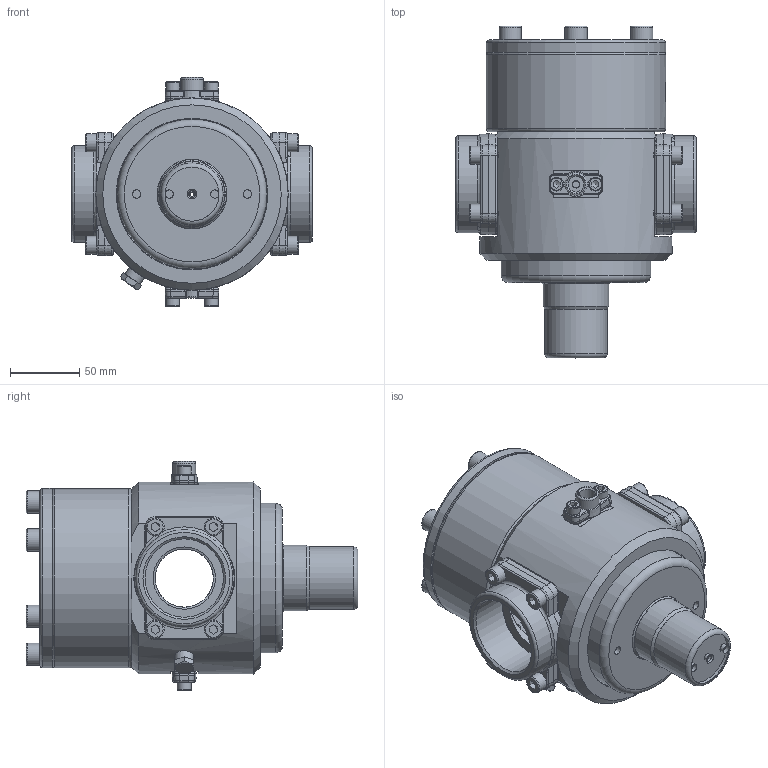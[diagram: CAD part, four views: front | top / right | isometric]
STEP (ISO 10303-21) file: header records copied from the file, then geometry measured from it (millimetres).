
FILE_DESCRIPTION(/* description */ ('Regolatore di pressione 320R2'),/* implementation_level */ '2;1');
FILE_NAME(/* name */ 'C:\Users\MassimoRatti\Desktop\320P2#T0E0GG990I000.stp',/* time_stamp */ '2023-03-16T15:07:06+01:00',/* author */ ('MassimoRatti'),/* organization */ (''),/* preprocessor_version */ 'ST-DEVELOPER v19',/* originating_system */ 'Autodesk Inventor 2023',/* authorisation */ '');
FILE_SCHEMA (('AUTOMOTIVE_DESIGN { 1 0 10303 214 3 1 1 }'));
Length unit declared in the file: millimetre
Products named in the file (41): C81084; C22061; P22033; P42022; P35019; P27132; P26130; P51050; OR 17156; 0DC10513; 0DC10513_1; 0DC10513_2; 0DC10513_3; 0DC10513_4; 0DC10513_5; 0DC10513_6; 0DC10513_7; 0DC10624; 0DC10410; OR 18123; OR 07021; OR 15121; OR 13157; OR 13096; OR 13043; OR 18155; OR 18155_1; OR 15121_1; P20692; P32012; P25057; P24023; P24023_1; P37129; P37131; P41134; P34014; P34232; P34233; P37163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
Assembly tree (51 placements, depth 3):
  C81084
    C22061
      P22033
      P42022
      P35019
    P27132
    P26130
    P51050
    OR 17156
    0DC10513
    0DC10513_1
    0DC10513_2
    0DC10513_3
    0DC10513_4
    0DC10513_5
    0DC10513_6
    0DC10513_7
    0DC10624  x6
    0DC10410  x4
    OR 13157  x2
    OR 18123
    OR 07021  x2
    OR 15121
    OR 13096
    OR 13043
    OR 18155
    OR 18155_1
    OR 15121_1
    P20692
    P32012
    P25057
    P24023
      P24023_1
    P37129
    P37131
    P41134
    P34014
    P34232
    P34233
    P37163  x2
    P43079
Bounding box: 174 x 239.8 x 165.6 mm (x, y, z)
Volume: 930622.9 mm3; surface area: 300566.3 mm2
Topology: 32 solids, 32 shells, 747 faces, 1859 edges, 1191 vertices
Faces by surface type: plane 274, cylinder 210, cone 120, torus 85, bspline 58
Full cylindrical faces by diameter (mm): 3 x1, 4.917 x5, 5.1 x2, 5.5 x1, 5.6 x1, 6 x8, 6.5 x4, 6.647 x8, 7.7 x2, 8 x8, 8.5 x8, 10 x10, 10.5 x6, 11 x1, 11.2 x2, 11.445 x3, 11.8 x1, 13 x8, 13.157 x1, 16 x6, 16.5 x1, 20 x1, 40 x1, 42 x1, 44 x1, 45 x2, 47.5 x1, 48.376 x1, 50 x1, 56.656 x2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
Entity records: 22088 total; most frequent: CARTESIAN_POINT 7243, DIRECTION 2839, ORIENTED_EDGE 2776, EDGE_CURVE 1388, AXIS2_PLACEMENT_3D 1182, VERTEX_POINT 894, EDGE_LOOP 664, CIRCLE 564
